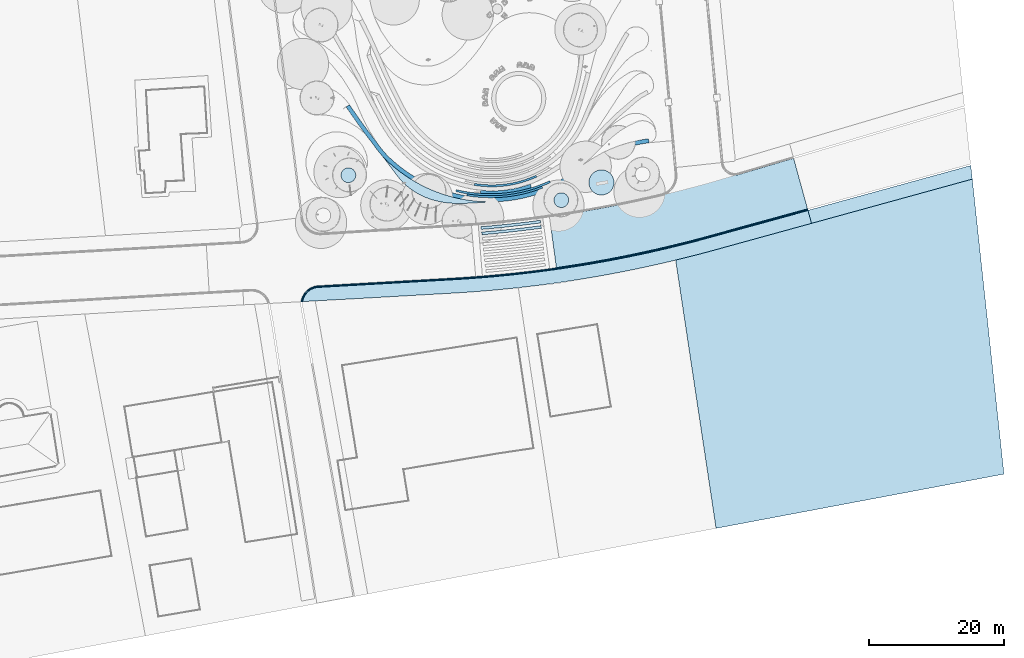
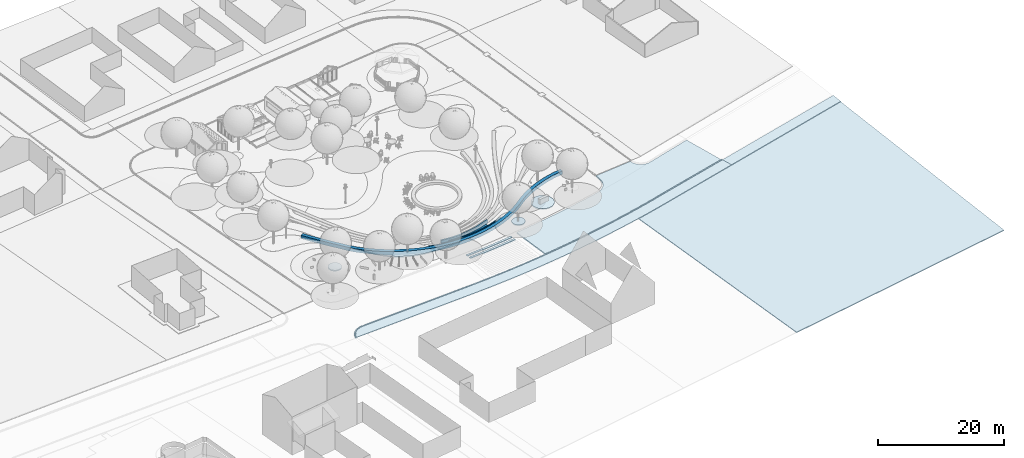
# One storey, part 10 of 75: 16 slabs.
"""IFC2X3 building model written with IfcOpenShell, lengths in metres."""

import ifcopenshell
import ifcopenshell.guid

model = None  # the IFC model being written
_history = None  # IfcOwnerHistory: only IFC2X3 demands one
_inside = {}  # id of a spatial element -> (the spatial element, [elements in it])
_under = {}  # id of a project, library or spatial element -> (it, [spatial elements below it])
_declared = {}  # id of a project -> (the project, [libraries it declares])
_typed = {}  # id of a type object -> (the type object, [elements of that type])
_made_of = {}  # id of a material, layer set ... -> (it, [elements and type objects made of it])


def new_model(schema):
    """Start an empty IFC model of exactly this schema.

    Asked for "IFC4X3", IfcOpenShell would pick the latest addendum, in which some entities
    have other attributes; the version numbers below select the first issue.
    IFC2X3 requires an IfcOwnerHistory on every rooted entity: one is made here for all.
    """
    global model, _history
    if schema == "IFC4X3":
        model = ifcopenshell.file(schema_version=(4, 3, 0, 0))
    else:
        model = ifcopenshell.file(schema=schema)
    _inside.clear()
    _under.clear()
    _declared.clear()
    _typed.clear()
    _made_of.clear()
    _history = None
    if model.schema == "IFC2X3":
        org = make("IfcOrganization", Name="unknown")
        user = make(
            "IfcPersonAndOrganization",
            ThePerson=make("IfcPerson", FamilyName="unknown"),
            TheOrganization=org,
        )
        app = make(
            "IfcApplication",
            ApplicationDeveloper=org,
            Version="unknown",
            ApplicationFullName="unknown",
            ApplicationIdentifier="unknown",
        )
        _history = make(
            "IfcOwnerHistory",
            OwningUser=user,
            OwningApplication=app,
            ChangeAction="ADDED",
            CreationDate=0,
        )
    return model


def make(cls, **values):
    """One entity of the class cls with the attributes given. An attribute that is None is left unset."""
    return model.create_entity(
        cls, **{name: value for name, value in values.items() if value is not None}
    )


def entity(cls, *values):
    """Any entity or typed value of the class cls, its attributes in the order of the schema. None: left unset."""
    e = model.create_entity(cls)
    for i, value in enumerate(values):
        if value is not None:
            e[i] = value
    return e


def rooted(cls, **values):
    """An entity with a GlobalId (a new one), such as an element, a storey or a relation."""
    return make(cls, GlobalId=ifcopenshell.guid.new(), OwnerHistory=_history, **values)


def si_unit(unit_type, name, prefix=None):
    """IfcSIUnit, for example si_unit("LENGTHUNIT", "METRE", prefix="MILLI")."""
    return make("IfcSIUnit", UnitType=unit_type, Prefix=prefix, Name=name)


def converted_unit(unit_type, name, factor, base, dimensions=None, offset=None):
    """IfcConversionBasedUnit, such as the inch: factor (a typed value) times the base unit."""
    return make(
        "IfcConversionBasedUnit"
        if offset is None
        else "IfcConversionBasedUnitWithOffset",
        ConversionOffset=offset,
        Dimensions=None
        if dimensions is None
        else entity("IfcDimensionalExponents", *dimensions),
        UnitType=unit_type,
        Name=name,
        ConversionFactor=make(
            "IfcMeasureWithUnit", ValueComponent=factor, UnitComponent=base
        ),
    )


def derived_unit(unit_type, elements):
    """IfcDerivedUnit: a product of units, each with its exponent."""
    return make(
        "IfcDerivedUnit",
        Elements=[
            make("IfcDerivedUnitElement", Unit=unit, Exponent=power)
            for unit, power in elements
        ],
        UnitType=unit_type,
    )


def assignment(units):
    """IfcUnitAssignment: the units of a project."""
    return None if units is None else make("IfcUnitAssignment", Units=units)


def point(xyz):
    """IfcCartesianPoint."""
    return None if xyz is None else make("IfcCartesianPoint", Coordinates=xyz)


def direction(xyz):
    """IfcDirection."""
    return None if xyz is None else make("IfcDirection", DirectionRatios=xyz)


def frame(location, z_axis=None, x_axis=None):
    """IfcAxis2Placement3D, a coordinate frame: its origin and axes. An axis left out is left unset."""
    return make(
        "IfcAxis2Placement3D",
        Location=point(location),
        Axis=direction(z_axis),
        RefDirection=direction(x_axis),
    )


def frame_2d(location, x_axis=None):
    """IfcAxis2Placement2D, a coordinate frame in the plane: its origin and x axis."""
    return make(
        "IfcAxis2Placement2D", Location=point(location), RefDirection=direction(x_axis)
    )


def origin():
    """The frame at (0, 0, 0) with its axes left unset."""
    return frame((0.0, 0.0, 0.0))


def place(relative_to, where):
    """IfcLocalPlacement: puts the frame where relative to a parent placement (None: the world)."""
    return make(
        "IfcLocalPlacement", PlacementRelTo=relative_to, RelativePlacement=where
    )


def context(
    kind, dimensions, precision=None, world=None, true_north=None, identifier=None
):
    """IfcGeometricRepresentationContext, for example the 3D "Model" context."""
    return make(
        "IfcGeometricRepresentationContext",
        ContextIdentifier=identifier,
        ContextType=kind,
        CoordinateSpaceDimension=dimensions,
        Precision=precision,
        WorldCoordinateSystem=world,
        TrueNorth=true_north,
    )


def subcontext(parent, identifier, kind, view, scale=None):
    """IfcGeometricRepresentationSubContext, for example "Body" below "Model"."""
    return make(
        "IfcGeometricRepresentationSubContext",
        ContextIdentifier=identifier,
        ContextType=kind,
        ParentContext=parent,
        TargetScale=scale,
        TargetView=view,
    )


def project(units=None, contexts=None):
    """IfcProject with its units and contexts."""
    return rooted(
        "IfcProject",
        Name="project",
        RepresentationContexts=contexts,
        UnitsInContext=assignment(units),
    )


def spatial(cls, under=None, at=None, **own):
    """A site, building, storey or space (cls), placed at a placement, below another one or the project."""
    s = rooted(cls, ObjectPlacement=at, **own)
    if under is not None:
        _under.setdefault(under.id(), (under, []))[1].append(s)
    return s


def polyline(points):
    """IfcPolyline through the points."""
    return make("IfcPolyline", Points=[point(p) for p in points])


def circle_curve(where, radius):
    """IfcCircle in the frame where."""
    return make("IfcCircle", Position=where, Radius=radius)


def parameter(value):
    """IfcParameterValue: where a trimmed curve begins or ends, as a parameter of its basis curve."""
    return model.create_entity("IfcParameterValue", value)


def trimmed(basis, trim1, trim2, sense, master):
    """IfcTrimmedCurve: the piece of a basis curve between two trims."""
    return make(
        "IfcTrimmedCurve",
        BasisCurve=basis,
        Trim1=trim1,
        Trim2=trim2,
        SenseAgreement=sense,
        MasterRepresentation=master,
    )


def segment(curve, same_sense, transition):
    """IfcCompositeCurveSegment."""
    return make(
        "IfcCompositeCurveSegment",
        Transition=transition,
        SameSense=same_sense,
        ParentCurve=curve,
    )


def composite_curve(segments, self_intersect=None):
    """IfcCompositeCurve: segments joined end to end."""
    return make("IfcCompositeCurve", Segments=segments, SelfIntersect=self_intersect)


def profile(cls, at=None, kind="AREA", **sizes):
    """A parametric profile (cls). Its sizes go by their IFC names, for example OverallWidth=200.0."""
    return make(cls, ProfileType=kind, Position=at, **sizes)


def circle(**sizes):
    """IfcCircleProfileDef."""
    return profile("IfcCircleProfileDef", **sizes)


def outline(outer, holes=None, kind="AREA"):
    """IfcArbitraryClosedProfileDef: a profile drawn as a closed curve; with holes, ...WithVoids."""
    if holes is None:
        return make("IfcArbitraryClosedProfileDef", ProfileType=kind, OuterCurve=outer)
    return make(
        "IfcArbitraryProfileDefWithVoids",
        ProfileType=kind,
        OuterCurve=outer,
        InnerCurves=holes,
    )


def extrude(swept, where, along, depth):
    """IfcExtrudedAreaSolid: the profile swept, set in the frame where, extruded along a direction by depth."""
    return make(
        "IfcExtrudedAreaSolid",
        SweptArea=swept,
        Position=where,
        ExtrudedDirection=direction(along),
        Depth=depth,
    )


def shape(context_of_items, identifier, shape_type, items):
    """IfcShapeRepresentation: the items that make up one representation, for example the "Body"."""
    return make(
        "IfcShapeRepresentation",
        ContextOfItems=context_of_items,
        RepresentationIdentifier=identifier,
        RepresentationType=shape_type,
        Items=items,
    )


def material(Name=None, Category=None):
    """IfcMaterial."""
    return make("IfcMaterial", Name=Name, Category=Category)


def layer(
    of_material, thickness, ventilated=None, Name=None, Category=None, Priority=None
):
    """IfcMaterialLayer: one layer of a wall or slab, of a material (None: an air gap)."""
    return make(
        "IfcMaterialLayer",
        Material=of_material,
        LayerThickness=thickness,
        IsVentilated=ventilated,
        Name=Name,
        Category=Category,
        Priority=Priority,
    )


def layer_set(layers, Name=None):
    """IfcMaterialLayerSet."""
    return make("IfcMaterialLayerSet", MaterialLayers=layers, LayerSetName=Name)


def layer_usage(for_layer_set, set_direction, sense, offset, extent=None):
    """IfcMaterialLayerSetUsage: how a layer set lies in its element."""
    return make(
        "IfcMaterialLayerSetUsage",
        ForLayerSet=for_layer_set,
        LayerSetDirection=set_direction,
        DirectionSense=sense,
        OffsetFromReferenceLine=offset,
        ReferenceExtent=extent,
    )


def made_of(thing, what):
    """Note that an element or type object is made of a material, layer set ...; save() writes the relation."""
    if what is not None:
        _made_of.setdefault(what.id(), (what, []))[1].append(thing)
    return thing


def type_object(cls, material=None, **own):
    """A type object (cls), such as IfcWallType, which elements share."""
    return made_of(rooted(cls, **own), material)


def element(
    cls,
    number,
    at=None,
    inside=None,
    cuts=None,
    type_object=None,
    material=None,
    context=None,
    identifier="Body",
    shape_type=None,
    held_by="IfcProductDefinitionShape",
    body=None,
    shapes=None,
    **own,
):
    """One element of the class cls, such as IfcWall. Its Tag is "e" and its number.

    at: its placement. inside: the storey or other place that contains it. cuts: it is an
    opening in that element (IfcRelVoidsElement). A single representation is given by context,
    identifier, shape_type and body (its items); several are given by shapes. held_by: the class
    of the entity that holds the representations. save() writes the other relations.
    """
    e = rooted(cls, Tag="e%d" % number, ObjectPlacement=at, **own)
    if body is not None:
        shapes = [shape(context, identifier, shape_type, body)]
    if shapes is not None:
        e.Representation = make(held_by, Representations=shapes)
    if inside is not None:
        _inside.setdefault(inside.id(), (inside, []))[1].append(e)
    if cuts is not None:
        rooted(
            "IfcRelVoidsElement", RelatingBuildingElement=cuts, RelatedOpeningElement=e
        )
    if type_object is not None:
        _typed.setdefault(type_object.id(), (type_object, []))[1].append(e)
    return made_of(e, material)


def aggregate(whole, parts):
    """IfcRelAggregates: a whole, such as a stair, and the parts it consists of."""
    return rooted("IfcRelAggregates", RelatingObject=whole, RelatedObjects=parts)


def save(model, path):
    """Write the relations noted so far, then the file.

    IfcRelAggregates (storeys below a building ...), IfcRelContainedInSpatialStructure (elements
    in a storey), IfcRelDefinesByType, IfcRelAssociatesMaterial and IfcRelDeclares: one each for
    every whole, place, type object, material and project.
    """
    for whole, parts in _under.values():
        aggregate(whole, parts)
    for where, things in _inside.values():
        rooted(
            "IfcRelContainedInSpatialStructure",
            RelatedElements=things,
            RelatingStructure=where,
        )
    for kind, things in _typed.values():
        rooted("IfcRelDefinesByType", RelatedObjects=things, RelatingType=kind)
    for what, things in _made_of.values():
        rooted("IfcRelAssociatesMaterial", RelatedObjects=things, RelatingMaterial=what)
    for by, libraries in _declared.values():
        rooted("IfcRelDeclares", RelatingContext=by, RelatedDefinitions=libraries)
    model.write(path)


model = new_model("IFC2X3")

# Units and contexts
model_context = context("Model", 3, precision=1e-05, world=origin(), true_north=direction((6.123031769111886e-17, 1.0)))
body_context = subcontext(model_context, "Body", "Model", "MODEL_VIEW")
ifc_project = project(units=[si_unit("LENGTHUNIT", "METRE"), si_unit("AREAUNIT", "SQUARE_METRE"), si_unit("VOLUMEUNIT", "CUBIC_METRE"), converted_unit("PLANEANGLEUNIT", "DEGREE", entity("IfcRatioMeasure", 0.017453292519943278), si_unit("PLANEANGLEUNIT", "RADIAN"), dimensions=[0, 0, 0, 0, 0, 0, 0]), si_unit("MASSUNIT", "GRAM", prefix="KILO"), derived_unit("MASSDENSITYUNIT", [(si_unit("MASSUNIT", "GRAM", prefix="KILO"), 1), (si_unit("LENGTHUNIT", "METRE"), -3)]), derived_unit("IONCONCENTRATIONUNIT", [(si_unit("MASSUNIT", "GRAM", prefix="KILO"), 1), (si_unit("LENGTHUNIT", "METRE"), -3)]), derived_unit("MOMENTOFINERTIAUNIT", [(si_unit("LENGTHUNIT", "METRE"), 4)]), si_unit("TIMEUNIT", "SECOND"), si_unit("FREQUENCYUNIT", "HERTZ"), si_unit("THERMODYNAMICTEMPERATUREUNIT", "DEGREE_CELSIUS"), derived_unit("THERMALTRANSMITTANCEUNIT", [(si_unit("MASSUNIT", "GRAM", prefix="KILO"), 1), (si_unit("THERMODYNAMICTEMPERATUREUNIT", "KELVIN"), -1), (si_unit("TIMEUNIT", "SECOND"), -3)]), derived_unit("THERMALCONDUCTANCEUNIT", [(si_unit("MASSUNIT", "GRAM", prefix="KILO"), 1), (si_unit("THERMODYNAMICTEMPERATUREUNIT", "KELVIN"), -1), (si_unit("TIMEUNIT", "SECOND"), -3), (si_unit("LENGTHUNIT", "METRE"), 1)]), derived_unit("VOLUMETRICFLOWRATEUNIT", [(si_unit("LENGTHUNIT", "METRE"), 3), (si_unit("TIMEUNIT", "SECOND"), -1)]), derived_unit("MASSFLOWRATEUNIT", [(si_unit("MASSUNIT", "GRAM", prefix="KILO"), 1), (si_unit("TIMEUNIT", "SECOND"), -1)]), derived_unit("ROTATIONALFREQUENCYUNIT", [(si_unit("TIMEUNIT", "SECOND"), -1)]), si_unit("ELECTRICCURRENTUNIT", "AMPERE"), si_unit("ELECTRICVOLTAGEUNIT", "VOLT"), si_unit("POWERUNIT", "WATT"), si_unit("FORCEUNIT", "NEWTON", prefix="KILO"), si_unit("ILLUMINANCEUNIT", "LUX"), si_unit("LUMINOUSFLUXUNIT", "LUMEN"), si_unit("LUMINOUSINTENSITYUNIT", "CANDELA"), derived_unit("USERDEFINED", [(si_unit("MASSUNIT", "GRAM", prefix="KILO"), -1), (si_unit("LENGTHUNIT", "METRE"), -2), (si_unit("TIMEUNIT", "SECOND"), 3), (si_unit("LUMINOUSFLUXUNIT", "LUMEN"), 1)]), derived_unit("USERDEFINED", [(si_unit("MASSUNIT", "GRAM", prefix="KILO"), 1), (si_unit("TIMEUNIT", "SECOND"), -3), (si_unit("LENGTHUNIT", "METRE"), 3), (si_unit("ELECTRICCURRENTUNIT", "AMPERE"), -2)]), derived_unit("SOUNDPOWERUNIT", [(si_unit("MASSUNIT", "GRAM", prefix="KILO"), 1), (si_unit("TIMEUNIT", "SECOND"), -3), (si_unit("LENGTHUNIT", "METRE"), 2)]), derived_unit("SOUNDPRESSUREUNIT", [(si_unit("MASSUNIT", "GRAM", prefix="KILO"), 1), (si_unit("LENGTHUNIT", "METRE"), -1), (si_unit("TIMEUNIT", "SECOND"), -2)]), derived_unit("LINEARVELOCITYUNIT", [(si_unit("LENGTHUNIT", "METRE"), 1), (si_unit("TIMEUNIT", "SECOND"), -1)]), si_unit("PRESSUREUNIT", "PASCAL"), derived_unit("USERDEFINED", [(si_unit("MASSUNIT", "GRAM", prefix="KILO"), 1), (si_unit("LENGTHUNIT", "METRE"), -2), (si_unit("TIMEUNIT", "SECOND"), -2)]), derived_unit("LINEARFORCEUNIT", [(si_unit("MASSUNIT", "GRAM", prefix="KILO"), 1), (si_unit("TIMEUNIT", "SECOND"), -2)]), derived_unit("PLANARFORCEUNIT", [(si_unit("MASSUNIT", "GRAM", prefix="KILO"), 1), (si_unit("LENGTHUNIT", "METRE"), -1), (si_unit("TIMEUNIT", "SECOND"), -2)]), derived_unit("SPECIFICHEATCAPACITYUNIT", [(si_unit("THERMODYNAMICTEMPERATUREUNIT", "KELVIN"), -1), (si_unit("LENGTHUNIT", "METRE"), 2), (si_unit("TIMEUNIT", "SECOND"), -2)]), derived_unit("HEATINGVALUEUNIT", [(si_unit("LENGTHUNIT", "METRE"), 2), (si_unit("TIMEUNIT", "SECOND"), -2)]), derived_unit("VAPORPERMEABILITYUNIT", [(si_unit("LENGTHUNIT", "METRE"), -1), (si_unit("TIMEUNIT", "SECOND"), 1)]), derived_unit("DYNAMICVISCOSITYUNIT", [(si_unit("MASSUNIT", "GRAM", prefix="KILO"), 1), (si_unit("TIMEUNIT", "SECOND"), -1), (si_unit("LENGTHUNIT", "METRE"), -1)]), derived_unit("THERMALEXPANSIONCOEFFICIENTUNIT", [(si_unit("THERMODYNAMICTEMPERATUREUNIT", "KELVIN"), -1)]), derived_unit("MODULUSOFELASTICITYUNIT", [(si_unit("MASSUNIT", "GRAM", prefix="KILO"), 1), (si_unit("LENGTHUNIT", "METRE"), -1), (si_unit("TIMEUNIT", "SECOND"), -2)]), derived_unit("ISOTHERMALMOISTURECAPACITYUNIT", [(si_unit("LENGTHUNIT", "METRE"), 3), (si_unit("MASSUNIT", "GRAM", prefix="KILO"), -1)]), derived_unit("MOISTUREDIFFUSIVITYUNIT", [(si_unit("TIMEUNIT", "SECOND"), -1), (si_unit("LENGTHUNIT", "METRE"), 2)])], contexts=[model_context])

# Site, building, storey
site_placement = place(None, origin())
site = spatial("IfcSite", under=ifc_project, at=site_placement, Name="Default", CompositionType="ELEMENT")
building_placement = place(site_placement, origin())
building = spatial("IfcBuilding", under=site, at=building_placement, Name="Projeto", CompositionType="ELEMENT")
storey_placement = place(building_placement, origin())
storey = spatial("IfcBuildingStorey", under=building, at=storey_placement, Name="Nível 1", CompositionType="ELEMENT", Elevation=0.0)

# Slabs
ifc_material_1 = material(Name="Piso CAJOI PASSEIO(1)")
ifc_layer_1 = layer(ifc_material_1, 0.1)
ifc_layer_set_1 = layer_set([ifc_layer_1], Name="Piso:Basalto 40x80")
ifc_layer_usage_1 = layer_usage(ifc_layer_set_1, "AXIS3", "POSITIVE", 0.0)
slab_type_1 = type_object("IfcSlabType", Name="Piso:Basalto 40x80", PredefinedType="FLOOR", material=ifc_layer_set_1)
slab_1_placement = place(storey_placement, origin())
element("IfcSlab", 1, at=slab_1_placement, inside=storey, type_object=slab_type_1, material=ifc_layer_usage_1, Name="Piso:Basalto 40x80", ObjectType="Piso:Basalto 40x80", PredefinedType="FLOOR", context=body_context, shape_type="SweptSolid", body=[
    extrude(outline(composite_curve([segment(polyline([(29.596489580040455, 2.9999852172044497), (44.6276022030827, 2.9999852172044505)]), True, "CONTINUOUS"), segment(polyline([(44.6276022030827, 2.999985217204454), (44.627602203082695, 4.99998521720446)]), True, "CONTINUOUS"), segment(polyline([(44.627602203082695, 4.9999852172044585), (29.64043430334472, 4.999985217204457)]), True, "CONTINUOUS"), segment(trimmed(circle_curve(frame_2d((29.640434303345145, -180.5156023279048), x_axis=(0.0, 1.0)), 185.51558754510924), [parameter(0.0)], [parameter(12.043620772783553)], True, "PARAMETER"), True, "CONTINUOUS"), segment(polyline([(-9.068565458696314, 0.9166069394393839), (-21.148699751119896, -1.678850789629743)]), True, "CONTINUOUS"), segment(polyline([(-21.148699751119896, -1.678850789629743), (-21.151880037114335, -1.6795367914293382)]), True, "CONTINUOUS"), segment(polyline([(-21.151880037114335, -1.6795367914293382), (-29.187003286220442, -3.4195892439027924)]), True, "CONTINUOUS"), segment(polyline([(-29.187003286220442, -3.4195892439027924), (-31.0285792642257, -3.8190807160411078)]), True, "CONTINUOUS"), segment(trimmed(circle_curve(frame_2d((-28.74068262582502, -2.8113461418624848), x_axis=(-0.9151586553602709, -0.4030938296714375)), 2.5000000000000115), [parameter(0.0)], [parameter(78.34547612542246)], True, "PARAMETER"), True, "CONTINUOUS"), segment(polyline([(-28.215902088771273, -5.255646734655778), (-8.691498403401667, -1.0638435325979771)]), True, "CONTINUOUS"), segment(trimmed(circle_curve(frame_2d((29.596489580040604, -179.4000147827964), x_axis=(-0.20991221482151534, 0.9777202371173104)), 182.4000000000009), [parameter(347.882792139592)], [parameter(0.0)], True, "PARAMETER"), False, "CONTINUOUS")], self_intersect=False)), frame((7.683882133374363, -26.024123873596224, 0.0), z_axis=(0.0, 0.0, -1.0), x_axis=(0.9641435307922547, 0.2653813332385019, 0.0)), (0.0, 0.0, 1.0), 0.09999999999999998),
])
slab_2_placement = place(storey_placement, frame((48.8029374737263, -19.001494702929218, -0.1)))
element("IfcSlab", 2, at=slab_2_placement, inside=storey, type_object=slab_type_1, material=ifc_layer_usage_1, Name="Piso:Basalto 40x80:2", ObjectType="Piso:Basalto 40x80", PredefinedType="FLOOR", context=body_context, shape_type="SweptSolid", body=[
    extrude(outline(polyline([(11.802255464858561, -7.517696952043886), (-12.293173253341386, -0.8854095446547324), (-12.5096259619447, -2.900210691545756), (11.271492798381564, -9.445984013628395), (11.802255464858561, -7.517696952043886)])), frame((14.506754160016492, 9.445984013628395, 0.1), z_axis=(0.0, 0.0, -1.0), x_axis=(-1.0, 0.0, 0.0)), (0.0, 0.0, 1.0), 0.1),
])
ifc_material_2 = material(Name="Concreto, Faixa de areia/cimento")
ifc_layer_2 = layer(ifc_material_2, 0.05)
ifc_material_3 = material(Name="Concreto, Moldado no local")
ifc_layer_3 = layer(ifc_material_3, 0.17500000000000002)
ifc_layer_set_2 = layer_set([ifc_layer_2, ifc_layer_3], Name="Piso:Concreto moldado em loco 225 mm")
ifc_layer_usage_2 = layer_usage(ifc_layer_set_2, "AXIS3", "POSITIVE", 0.0)
slab_type_2 = type_object("IfcSlabType", Name="Piso:Concreto moldado em loco 225 mm", PredefinedType="FLOOR", material=ifc_layer_set_2)
slab_3_placement = place(storey_placement, frame((-37.47088444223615, -30.84529528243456, -0.34500000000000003)))
element("IfcSlab", 3, at=slab_3_placement, inside=storey, type_object=slab_type_2, material=ifc_layer_usage_2, Name="Piso:Concreto moldado em loco 225 mm", ObjectType="Piso:Concreto moldado em loco 225 mm", PredefinedType="FLOOR", context=body_context, shape_type="SweptSolid", body=[
    extrude(outline(composite_curve([segment(trimmed(circle_curve(frame_2d((-33.73958838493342, 10.279586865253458), x_axis=(-1.0, 0.0)), 2.0258035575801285), [parameter(77.15618086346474)], [parameter(174.62915810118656)], True, "PARAMETER"), False, "CONTINUOUS"), segment(polyline([(-34.18991279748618, 8.304469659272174), (-42.395152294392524, 10.738068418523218)]), True, "CONTINUOUS"), segment(polyline([(-42.395152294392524, 10.738068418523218), (-44.462622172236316, 3.226847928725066)]), True, "CONTINUOUS"), segment(polyline([(-44.462622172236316, 3.226847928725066), (-29.970472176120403, -0.7621287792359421)]), True, "CONTINUOUS"), segment(trimmed(circle_curve(frame_2d((18.382006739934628, 174.90482253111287), x_axis=(-1.0, 0.0)), 182.20000000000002), [parameter(74.61038709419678)], [parameter(78.55556506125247)], True, "PARAMETER"), True, "CONTINUOUS"), segment(trimmed(circle_curve(frame_2d((18.382006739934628, 174.90482253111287), x_axis=(-1.0, 0.0)), 182.20000000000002), [parameter(78.55556506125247)], [parameter(81.8916493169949)], True, "PARAMETER"), True, "CONTINUOUS"), segment(polyline([(-7.316487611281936, -5.4737443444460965), (-6.280114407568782, 2.09797674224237)]), True, "CONTINUOUS"), segment(trimmed(circle_curve(frame_2d((19.199625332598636, 182.91153503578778), x_axis=(-1.0, 0.0)), 182.6), [parameter(78.86366208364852)], [parameter(81.97885482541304)], True, "PARAMETER"), False, "CONTINUOUS"), segment(trimmed(circle_curve(frame_2d((19.199625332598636, 182.91153503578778), x_axis=(-1.0, 0.0)), 182.6), [parameter(76.70298553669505)], [parameter(78.86366208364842)], True, "PARAMETER"), False, "CONTINUOUS"), segment(trimmed(circle_curve(frame_2d((-22.108199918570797, 8.126456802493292), x_axis=(-1.0, 0.0)), 3.0000000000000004), [parameter(354.7833179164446)], [parameter(76.70298553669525)], True, "PARAMETER"), False, "CONTINUOUS"), segment(polyline([(-25.095773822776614, 8.399224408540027), (-25.00712250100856, 9.370206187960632)]), True, "CONTINUOUS"), segment(polyline([(-25.00712250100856, 9.370206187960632), (-31.72267865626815, 10.089968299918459)]), True, "CONTINUOUS")], self_intersect=False)), frame((44.462622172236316, 10.738068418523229, 0.225), z_axis=(0.0, 0.0, -1.0), x_axis=(-1.0, 0.0, 0.0)), (0.0, 0.0, 1.0), 0.225),
])
ifc_material_4 = material(Name="Concreto moldado In loco")
ifc_layer_4 = layer(ifc_material_4, 0.12)
ifc_layer_set_3 = layer_set([ifc_layer_4], Name="Piso:meio fio de concreto")
ifc_layer_usage_3 = layer_usage(ifc_layer_set_3, "AXIS3", "POSITIVE", 0.0)
slab_type_3 = type_object("IfcSlabType", Name="Piso:meio fio de concreto", PredefinedType="FLOOR", material=ifc_layer_set_3)
slab_4_placement = place(storey_placement, frame((-32.49151896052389, -30.854733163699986, -0.12)))
element("IfcSlab", 4, at=slab_4_placement, inside=storey, type_object=slab_type_3, material=ifc_layer_usage_3, Name="Piso:meio fio de concreto:4", ObjectType="Piso:meio fio de concreto", PredefinedType="FLOOR", context=body_context, shape_type="SweptSolid", body=[
    extrude(outline(composite_curve([segment(polyline([(30.46602292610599, -8.148929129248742), (10.529269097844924, -7.009016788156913)]), True, "CONTINUOUS"), segment(trimmed(circle_curve(frame_2d((20.929827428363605, 174.89389244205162), x_axis=(-1.0, 0.0)), 182.20000000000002), [parameter(74.61038709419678)], [parameter(86.72759495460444)], True, "PARAMETER"), False, "CONTINUOUS"), segment(polyline([(-27.422651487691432, -0.7730588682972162), (-41.91480148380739, 3.215917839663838)]), True, "CONTINUOUS"), segment(polyline([(-41.91480148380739, 3.215917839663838), (-41.967877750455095, 3.0230891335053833)]), True, "CONTINUOUS"), segment(polyline([(-41.967877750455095, 3.023089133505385), (-27.475727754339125, -0.9658875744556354)]), True, "CONTINUOUS"), segment(trimmed(circle_curve(frame_2d((20.929827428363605, 174.89389244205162), x_axis=(-1.0, 0.0)), 182.4), [parameter(74.61038709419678)], [parameter(86.72759495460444)], True, "PARAMETER"), True, "CONTINUOUS"), segment(polyline([(10.517852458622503, -7.208690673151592), (30.45460628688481, -8.34860301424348)]), True, "CONTINUOUS"), segment(trimmed(circle_curve(frame_2d((30.311898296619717, -10.844526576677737), x_axis=(-1.0, 0.0)), 2.5), [parameter(188.38211882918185)], [parameter(266.7275949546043)], True, "PARAMETER"), False, "CONTINUOUS"), segment(polyline([(32.785192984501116, -10.480090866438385), (32.988691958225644, -10.491290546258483)]), True, "CONTINUOUS"), segment(trimmed(circle_curve(frame_2d((30.311898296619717, -10.844526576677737), x_axis=(-1.0, 0.0)), 2.7), [parameter(187.51745108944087)], [parameter(266.72759495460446)], True, "PARAMETER"), True, "CONTINUOUS")], self_intersect=False)), frame((42.031077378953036, 10.758436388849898, 0.12), z_axis=(0.0, 0.0, -1.0), x_axis=(-1.0, 0.0, 0.0)), (0.0, 0.0, 1.0), 0.12),
])
ifc_material_5 = material(Name="<Unnamed>")
ifc_layer_5 = layer(ifc_material_5, 0.14999999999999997)
ifc_layer_set_4 = layer_set([ifc_layer_5], Name="Piso:Genérico 150 mm")
ifc_layer_usage_4 = layer_usage(ifc_layer_set_4, "AXIS3", "POSITIVE", 0.0)
slab_type_4 = type_object("IfcSlabType", Name="Piso:Genérico 150 mm", PredefinedType="FLOOR", material=ifc_layer_set_4)
slab_5_placement = place(storey_placement, origin())
element("IfcSlab", 5, at=slab_5_placement, inside=storey, type_object=slab_type_4, material=ifc_layer_usage_4, Name="Piso:Genérico 150 mm", ObjectType="Piso:Genérico 150 mm", PredefinedType="FLOOR", context=body_context, shape_type="SweptSolid", body=[
    extrude(outline(polyline([(-20.92263343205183, -25.44967079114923), (22.963826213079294, -25.44967079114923), (26.393666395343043, 17.751043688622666), (-13.891411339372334, 19.46175699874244), (-14.543447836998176, 13.686540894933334), (-20.92263343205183, -25.44967079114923)])), frame((52.75013691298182, -35.977099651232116, -0.1), z_axis=(0.0, 0.0, -1.0), x_axis=(0.10681665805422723, -0.994278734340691, 0.0)), (0.0, 0.0, 1.0), 0.14999999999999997),
])
ifc_material_6 = material(Name="floração tipo 2")
ifc_layer_6 = layer(ifc_material_6, 0.04)
ifc_layer_7 = layer(ifc_material_6, 0.16)
ifc_layer_set_5 = layer_set([ifc_layer_6, ifc_layer_7], Name="Piso:Floração tipo 2")
ifc_layer_usage_5 = layer_usage(ifc_layer_set_5, "AXIS3", "POSITIVE", 0.0)
slab_type_5 = type_object("IfcSlabType", Name="Piso:Floração tipo 2", PredefinedType="FLOOR", material=ifc_layer_set_5)
slab_6_placement = place(storey_placement, frame((-21.255087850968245, -18.92636642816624, -0.2)))
element("IfcSlab", 6, at=slab_6_placement, inside=storey, type_object=slab_type_5, material=ifc_layer_usage_5, Name="Piso:Floração tipo 2:2", ObjectType="Piso:Floração tipo 2", PredefinedType="FLOOR", context=body_context, shape_type="SweptSolid", body=[
    extrude(circle(Radius=1.088876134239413, at=frame_2d((19.89907371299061, 2.9057304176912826), x_axis=(1.0, 0.0))), frame((24.696178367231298, 4.13314859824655, 0.2), z_axis=(0.0, 0.0, -1.0), x_axis=(-1.0, 0.0, 0.0)), (0.0, 0.0, 1.0), 0.2),
])
slab_7_placement = place(storey_placement, frame((-21.255087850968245, -18.92636642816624, -0.2)))
element("IfcSlab", 7, at=slab_7_placement, inside=storey, type_object=slab_type_5, material=ifc_layer_usage_5, Name="Piso:Floração tipo 2:3", ObjectType="Piso:Floração tipo 2", PredefinedType="FLOOR", context=body_context, shape_type="SweptSolid", body=[
    extrude(circle(Radius=1.088876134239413, at=frame_2d((-11.59144984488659, -0.7760928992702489), x_axis=(1.0, 0.0))), frame((24.696178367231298, 4.13314859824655, 0.2), z_axis=(0.0, 0.0, -1.0), x_axis=(-1.0, 0.0, 0.0)), (0.0, 0.0, 1.0), 0.2),
])
slab_8_placement = place(storey_placement, frame((-21.255087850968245, -18.92636642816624, -0.2)))
element("IfcSlab", 8, at=slab_8_placement, inside=storey, type_object=slab_type_5, material=ifc_layer_usage_5, Name="Piso:Floração tipo 2:4", ObjectType="Piso:Floração tipo 2", PredefinedType="FLOOR", context=body_context, shape_type="SweptSolid", body=[
    extrude(circle(Radius=1.8543187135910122, at=frame_2d((-17.525262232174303, 1.8403568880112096), x_axis=(1.0, 0.0))), frame((24.696178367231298, 4.13314859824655, 0.2), z_axis=(0.0, 0.0, -1.0), x_axis=(-1.0, 0.0, 0.0)), (0.0, 0.0, 1.0), 0.2),
])
slab_9_placement = place(storey_placement, frame((-11.513894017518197, -16.062018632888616, -0.2)))
element("IfcSlab", 9, at=slab_9_placement, inside=storey, type_object=slab_type_5, material=ifc_layer_usage_5, Name="Piso:Floração tipo 2", ObjectType="Piso:Floração tipo 2", PredefinedType="FLOOR", context=body_context, shape_type="SweptSolid", body=[
    extrude(outline(composite_curve([segment(trimmed(circle_curve(frame_2d((-8.02368303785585, 18.968895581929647), x_axis=(-1.0, 0.0)), 22.27760031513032), [parameter(89.99999999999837)], [parameter(134.08416079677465)], True, "PARAMETER"), False, "CONTINUOUS"), segment(trimmed(circle_curve(frame_2d((-2.0908173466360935, 65.01409127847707), x_axis=(-1.0, 0.0)), 68.57990485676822), [parameter(85.03712341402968)], [parameter(88.75536173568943)], True, "PARAMETER"), True, "CONTINUOUS"), segment(trimmed(circle_curve(frame_2d((-3.2818094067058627, 10.196489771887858), x_axis=(-1.0, 0.0)), 13.749366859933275), [parameter(88.75536173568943)], [parameter(105.26835481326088)], True, "PARAMETER"), True, "CONTINUOUS"), segment(trimmed(circle_curve(frame_2d((-2.370388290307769, 6.857651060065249), x_axis=(-1.0, 0.0)), 10.288365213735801), [parameter(105.26835481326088)], [parameter(143.52347343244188)], True, "PARAMETER"), True, "CONTINUOUS"), segment(trimmed(circle_curve(frame_2d((151.81776650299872, -107.13785441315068), x_axis=(-1.0, 0.0)), 181.4639811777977), [parameter(322.4114123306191)], [parameter(323.5234734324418)], True, "PARAMETER"), False, "CONTINUOUS"), segment(trimmed(circle_curve(frame_2d((-4.1248154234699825, 14.366964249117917), x_axis=(-1.0, 0.0)), 16.26439354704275), [parameter(135.49693574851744)], [parameter(138.32585542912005)], True, "PARAMETER"), False, "CONTINUOUS")], self_intersect=False)), frame((8.023683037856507, 3.552530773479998, 0.2), z_axis=(0.0, 0.0, -1.0), x_axis=(-1.0, 0.0, 0.0)), (0.0, 0.0, 1.0), 0.2),
])
ifc_material_7 = material(Name="cacao")
ifc_layer_8 = layer(ifc_material_7, 0.65)
ifc_layer_set_6 = layer_set([ifc_layer_8], Name="Piso:Banco de concreto")
ifc_layer_usage_6 = layer_usage(ifc_layer_set_6, "AXIS3", "POSITIVE", 0.0)
slab_type_6 = type_object("IfcSlabType", Name="Piso:Banco de concreto", PredefinedType="FLOOR", material=ifc_layer_set_6)
slab_10_placement = place(storey_placement, frame((-16.790752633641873, -15.817742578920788, -0.65)))
element("IfcSlab", 10, at=slab_10_placement, inside=storey, type_object=slab_type_6, material=ifc_layer_usage_6, Name="Piso:Banco de concreto", ObjectType="Piso:Banco de concreto", PredefinedType="FLOOR", context=body_context, shape_type="SweptSolid", body=[
    extrude(outline(composite_curve([segment(trimmed(circle_curve(frame_2d((24.624754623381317, -22.23781783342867), x_axis=(1.0, 0.0)), 19.92988503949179), [parameter(96.927293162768)], [parameter(129.26184256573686)], True, "PARAMETER"), False, "CONTINUOUS"), segment(polyline([(22.221016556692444, -2.4534209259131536), (22.148650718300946, -1.8578009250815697)]), True, "CONTINUOUS"), segment(trimmed(circle_curve(frame_2d((24.624754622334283, -22.237817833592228), x_axis=(1.0, 0.0)), 20.529885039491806), [parameter(96.92729315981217)], [parameter(129.22126567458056)], True, "PARAMETER"), True, "CONTINUOUS"), segment(trimmed(circle_curve(frame_2d((-1.2470765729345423, 11.095453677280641), x_axis=(1.0, 0.0)), 21.677600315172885), [parameter(225.93544219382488)], [parameter(306.4872028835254)], True, "PARAMETER"), False, "CONTINUOUS"), segment(trimmed(circle_curve(frame_2d((-5.145944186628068, 6.493522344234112), x_axis=(1.0, 0.0)), 15.664393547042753), [parameter(214.09702935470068)], [parameter(224.47607537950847)], True, "PARAMETER"), False, "CONTINUOUS"), segment(trimmed(circle_curve(frame_2d((44.92833094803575, 47.45921925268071), x_axis=(1.0, 0.0)), 80.30906206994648), [parameter(213.4605745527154)], [parameter(218.2756597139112)], True, "PARAMETER"), False, "CONTINUOUS"), segment(polyline([(-22.070742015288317, 3.179769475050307), (-22.571301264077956, 2.8489516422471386)]), True, "CONTINUOUS"), segment(trimmed(circle_curve(frame_2d((44.92833094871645, 47.45921925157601), x_axis=(1.0, 0.0)), 80.90906206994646), [parameter(213.46057455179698)], [parameter(218.26027608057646)], True, "PARAMETER"), True, "CONTINUOUS"), segment(trimmed(circle_curve(frame_2d((-5.145944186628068, 6.493522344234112), x_axis=(1.0, 0.0)), 16.26439354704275), [parameter(214.17471917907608)], [parameter(224.50306425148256)], True, "PARAMETER"), True, "CONTINUOUS"), segment(trimmed(circle_curve(frame_2d((-1.2470765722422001, 11.095453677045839), x_axis=(1.0, 0.0)), 22.27760031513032), [parameter(225.91583920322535)], [parameter(306.52455236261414)], True, "PARAMETER"), True, "CONTINUOUS")], self_intersect=False)), frame((22.571301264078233, 11.181696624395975, 0.65)), (0.0, 0.0, -1.0), 0.65),
])
slab_11_placement = place(storey_placement, frame((3.0604688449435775, -14.618130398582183, -1.1)))
element("IfcSlab", 11, at=slab_11_placement, inside=storey, type_object=slab_type_6, material=ifc_layer_usage_6, Name="Piso:Banco de concreto", ObjectType="Piso:Banco de concreto", PredefinedType="FLOOR", context=body_context, shape_type="SweptSolid", body=[
    extrude(outline(composite_curve([segment(trimmed(circle_curve(frame_2d((2.2964103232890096, 20.368485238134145), x_axis=(-1.0, 0.0)), 21.0776003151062), [parameter(73.27458753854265)], [parameter(94.0073687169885)], True, "PARAMETER"), True, "CONTINUOUS"), segment(polyline([(3.7694135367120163, -0.6575818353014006), (3.737968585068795, -0.20872764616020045)]), True, "CONTINUOUS"), segment(trimmed(circle_curve(frame_2d((2.0539819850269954, 16.18884623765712), x_axis=(-1.0, 0.0)), 16.483817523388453), [parameter(69.89871444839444)], [parameter(95.86356581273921)], True, "PARAMETER"), False, "CONTINUOUS"), segment(polyline([(-3.611189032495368, 0.7091150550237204), (-3.7694135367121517, 0.18257391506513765)]), True, "CONTINUOUS")], self_intersect=False)), frame((3.769413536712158, 0.7090528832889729, 0.65), z_axis=(0.0, 0.0, -1.0), x_axis=(-1.0, 0.0, 0.0)), (0.0, 0.0, 1.0), 0.65),
])
ifc_material_8 = material(Name=".Concreto_Laje")
ifc_layer_9 = layer(ifc_material_8, 0.5999999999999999)
ifc_layer_set_7 = layer_set([ifc_layer_9], Name="Piso:Degrau de concreto")
ifc_layer_usage_7 = layer_usage(ifc_layer_set_7, "AXIS3", "POSITIVE", 0.0)
slab_type_7 = type_object("IfcSlabType", Name="Piso:Degrau de concreto", PredefinedType="FLOOR", material=ifc_layer_set_7)
slab_12_placement = place(storey_placement, frame((1.0308200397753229, -15.217876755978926, -0.7499999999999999)))
element("IfcSlab", 12, at=slab_12_placement, inside=storey, type_object=slab_type_7, material=ifc_layer_usage_7, Name="Piso:Degrau de concreto", ObjectType="Piso:Degrau de concreto", PredefinedType="FLOOR", context=body_context, shape_type="SweptSolid", body=[
    extrude(outline(composite_curve([segment(trimmed(circle_curve(frame_2d((2.1148569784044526, 20.82448655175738), x_axis=(-1.0, 0.0)), 21.677600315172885), [parameter(69.1024268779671)], [parameter(99.2985777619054)], True, "PARAMETER"), True, "CONTINUOUS"), segment(polyline([(5.617508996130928, -0.5682641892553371), (5.5690351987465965, -0.2722062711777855)]), True, "CONTINUOUS"), segment(trimmed(circle_curve(frame_2d((2.1148569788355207, 20.8244865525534), x_axis=(-1.0, 0.0)), 21.37760031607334), [parameter(69.10242687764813)], [parameter(99.29857776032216)], True, "PARAMETER"), False, "CONTINUOUS"), segment(polyline([(-5.510499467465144, 0.8531136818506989), (-5.617508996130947, 0.5728478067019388)]), True, "CONTINUOUS")], self_intersect=False)), frame((5.617508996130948, 0.8527979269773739, 0.5999999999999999), z_axis=(0.0, 0.0, -1.0), x_axis=(-1.0, 0.0, 0.0)), (0.0, 0.0, 1.0), 0.5999999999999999),
])
slab_13_placement = place(storey_placement, frame((-0.5703156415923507, -14.918166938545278, -0.8999999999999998)))
element("IfcSlab", 13, at=slab_13_placement, inside=storey, type_object=slab_type_7, material=ifc_layer_usage_7, Name="Piso:Degrau de concreto", ObjectType="Piso:Degrau de concreto", PredefinedType="FLOOR", context=body_context, shape_type="SweptSolid", body=[
    extrude(outline(composite_curve([segment(polyline([(-6.93216862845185, -0.19809236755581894), (-7.003792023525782, -0.48941708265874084)]), True, "CONTINUOUS"), segment(trimmed(circle_curve(frame_2d((-1.9000043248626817, 20.26999394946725), x_axis=(1.0, 0.0)), 21.37760031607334), [parameter(256.1875395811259)], [parameter(294.6138903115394)], True, "PARAMETER"), True, "CONTINUOUS"), segment(polyline([(7.003792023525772, 0.8348658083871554), (6.878841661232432, 1.1076063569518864)]), True, "CONTINUOUS"), segment(trimmed(circle_curve(frame_2d((-1.9000043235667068, 20.269993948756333), x_axis=(1.0, 0.0)), 21.0776003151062), [parameter(256.18753957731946)], [parameter(294.6138903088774)], True, "PARAMETER"), False, "CONTINUOUS")], self_intersect=False)), frame((7.003792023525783, 1.1075807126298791, 0.5999999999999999)), (0.0, 0.0, -1.0), 0.5999999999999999),
])
slab_14_placement = place(storey_placement, frame((2.137759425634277, -13.603911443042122, -1.1999999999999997)))
element("IfcSlab", 14, at=slab_14_placement, inside=storey, type_object=slab_type_7, material=ifc_layer_usage_7, Name="Piso:Degrau de concreto", ObjectType="Piso:Degrau de concreto", PredefinedType="FLOOR", context=body_context, shape_type="SweptSolid", body=[
    extrude(outline(composite_curve([segment(trimmed(circle_curve(frame_2d((1.9896542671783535, 15.02539780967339), x_axis=(-1.0, 0.0)), 15.883817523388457), [parameter(65.37888697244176)], [parameter(99.56055228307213)], True, "PARAMETER"), True, "CONTINUOUS"), segment(polyline([(4.627795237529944, -0.63780337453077), (4.577968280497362, -0.3419701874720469)]), True, "CONTINUOUS"), segment(trimmed(circle_curve(frame_2d((1.989654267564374, 15.025397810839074), x_axis=(-1.0, 0.0)), 15.583817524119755), [parameter(65.37888697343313)], [parameter(99.56055228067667)], True, "PARAMETER"), False, "CONTINUOUS"), segment(polyline([(-4.502810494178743, 0.8584196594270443), (-4.627795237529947, 0.5856948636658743)]), True, "CONTINUOUS")], self_intersect=False)), frame((4.627795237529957, 0.8582823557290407, 0.5999999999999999), z_axis=(0.0, 0.0, -1.0), x_axis=(-1.0, 0.0, 0.0)), (0.0, 0.0, 1.0), 0.5999999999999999),
])
ifc_material_9 = material(Name="Cristal Pool")
ifc_layer_10 = layer(ifc_material_9, 0.16)
ifc_layer_set_8 = layer_set([ifc_layer_10], Name="Piso:faixa")
ifc_layer_usage_8 = layer_usage(ifc_layer_set_8, "AXIS3", "POSITIVE", 0.0)
slab_type_8 = type_object("IfcSlabType", Name="Piso:faixa", PredefinedType="FLOOR", material=ifc_layer_set_8)
slab_15_placement = place(storey_placement, frame((3.164339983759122, -26.260016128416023, -0.16)))
element("IfcSlab", 15, at=slab_15_placement, inside=storey, type_object=slab_type_8, material=ifc_layer_usage_8, Name="Piso:faixa", ObjectType="Piso:faixa", PredefinedType="FLOOR", context=body_context, shape_type="SweptSolid", body=[
    extrude(outline(composite_curve([segment(polyline([(-4.024811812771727, 3.857620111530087), (-4.07905609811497, 3.4613124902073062)]), True, "CONTINUOUS"), segment(trimmed(circle_curve(frame_2d((20.1424718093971, 185.40613952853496), x_axis=(-1.0, 0.0)), 183.55000000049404), [parameter(82.4170470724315)], [parameter(85.17898234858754)], True, "PARAMETER"), True, "CONTINUOUS"), segment(polyline([(4.716309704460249, 2.505521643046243), (4.7486965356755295, 2.904210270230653)]), True, "CONTINUOUS"), segment(trimmed(circle_curve(frame_2d((20.1424718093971, 185.40613952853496), x_axis=(-1.0, 0.0)), 183.150000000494), [parameter(82.41750774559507)], [parameter(85.17859603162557)], True, "PARAMETER"), False, "CONTINUOUS")], self_intersect=False)), frame((4.7486965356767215, 3.8570206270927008, 0.16), z_axis=(0.0, 0.0, -1.0), x_axis=(-1.0, 0.0, 0.0)), (0.0, 0.0, 1.0), 0.16000000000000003),
])
slab_16_placement = place(storey_placement, frame((3.164339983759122, -26.260016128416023, -0.16)))
element("IfcSlab", 16, at=slab_16_placement, inside=storey, type_object=slab_type_8, material=ifc_layer_usage_8, Name="Piso:faixa:2", ObjectType="Piso:faixa", PredefinedType="FLOOR", context=body_context, shape_type="SweptSolid", body=[
    extrude(outline(composite_curve([segment(polyline([(-4.111238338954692, 3.062302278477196), (-4.165482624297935, 2.665994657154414)]), True, "CONTINUOUS"), segment(trimmed(circle_curve(frame_2d((20.056045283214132, 184.6108216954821), x_axis=(-1.0, 0.0)), 183.55000000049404), [parameter(82.4170470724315)], [parameter(85.17898234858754)], True, "PARAMETER"), True, "CONTINUOUS"), segment(polyline([(4.629883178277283, 1.7102038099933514), (4.662270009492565, 2.1088924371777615)]), True, "CONTINUOUS"), segment(trimmed(circle_curve(frame_2d((20.056045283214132, 184.6108216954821), x_axis=(-1.0, 0.0)), 183.150000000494), [parameter(82.41750774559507)], [parameter(85.17859603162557)], True, "PARAMETER"), False, "CONTINUOUS")], self_intersect=False)), frame((4.7486965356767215, 3.8570206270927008, 0.16), z_axis=(0.0, 0.0, -1.0), x_axis=(-1.0, 0.0, 0.0)), (0.0, 0.0, 1.0), 0.16000000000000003),
])

save(model, "model.ifc")
